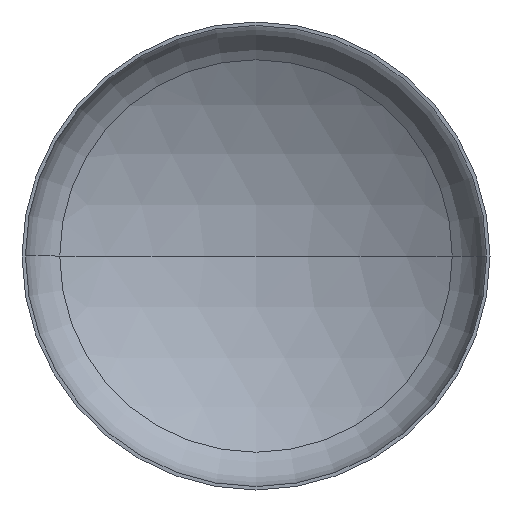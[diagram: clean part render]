
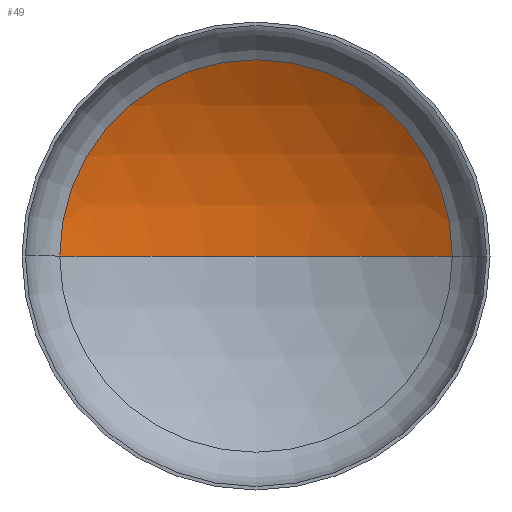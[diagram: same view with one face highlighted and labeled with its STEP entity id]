
A CAD part, front view. The second image highlights one B-rep face of the part: STEP entity #49.
In plain terms, the highlighted spherical face has radius 4000 mm.
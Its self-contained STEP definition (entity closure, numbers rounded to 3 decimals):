
#2 = EDGE_LOOP ( 'NONE', ( #8, #83, #9 ) ) ;
#8 = ORIENTED_EDGE ( 'NONE', *, *, #133, .F. ) ;
#9 = ORIENTED_EDGE ( 'NONE', *, *, #117, .T. ) ;
#17 = CARTESIAN_POINT ( 'NONE',  ( 0., 775.753, 0. ) ) ;
#22 = CARTESIAN_POINT ( 'NONE',  ( 0., -2630.755, 0. ) ) ;
#39 = VERTEX_POINT ( 'NONE', #268 ) ;
#48 = AXIS2_PLACEMENT_3D ( 'NONE', #196, #207, #209 ) ;
#49 = ADVANCED_FACE ( 'NONE', ( #314 ), #145, .F. ) ;
#50 = AXIS2_PLACEMENT_3D ( 'NONE', #22, #126, #288 ) ;
#52 = AXIS2_PLACEMENT_3D ( 'NONE', #17, #236, #172 ) ;
#82 = AXIS2_PLACEMENT_3D ( 'NONE', #299, #252, #251 ) ;
#83 = ORIENTED_EDGE ( 'NONE', *, *, #119, .T. ) ;
#84 = VERTEX_POINT ( 'NONE', #368 ) ;
#117 = EDGE_CURVE ( 'NONE', #39, #84, #364, .T. ) ;
#119 = EDGE_CURVE ( 'NONE', #139, #39, #359, .T. ) ;
#126 = DIRECTION ( 'NONE',  ( 0., 0., -1. ) ) ;
#133 = EDGE_CURVE ( 'NONE', #139, #84, #411, .T. ) ;
#139 = VERTEX_POINT ( 'NONE', #390 ) ;
#145 = SPHERICAL_SURFACE ( 'NONE', #82, 4000. ) ;
#172 = DIRECTION ( 'NONE',  ( 1., 0., 0. ) ) ;
#196 = CARTESIAN_POINT ( 'NONE',  ( 0., -2630.755, 0. ) ) ;
#207 = DIRECTION ( 'NONE',  ( 0., 0., 1. ) ) ;
#209 = DIRECTION ( 'NONE',  ( 1., 0., 0. ) ) ;
#236 = DIRECTION ( 'NONE',  ( 0., -1., 0. ) ) ;
#251 = DIRECTION ( 'NONE',  ( -1., 0., 0. ) ) ;
#252 = DIRECTION ( 'NONE',  ( 0., 0., -1. ) ) ;
#268 = CARTESIAN_POINT ( 'NONE',  ( 2096.594, 775.753, 0. ) ) ;
#288 = DIRECTION ( 'NONE',  ( -1., 0., 0. ) ) ;
#299 = CARTESIAN_POINT ( 'NONE',  ( 0., -2630.755, 0. ) ) ;
#314 = FACE_OUTER_BOUND ( 'NONE', #2, .T. ) ;
#359 = CIRCLE ( 'NONE', #50, 4000. ) ;
#364 = CIRCLE ( 'NONE', #52, 2096.594 ) ;
#368 = CARTESIAN_POINT ( 'NONE',  ( -2096.594, 775.753, 0. ) ) ;
#390 = CARTESIAN_POINT ( 'NONE',  ( 0., 1369.245, 0. ) ) ;
#411 = CIRCLE ( 'NONE', #48, 4000. ) ;
